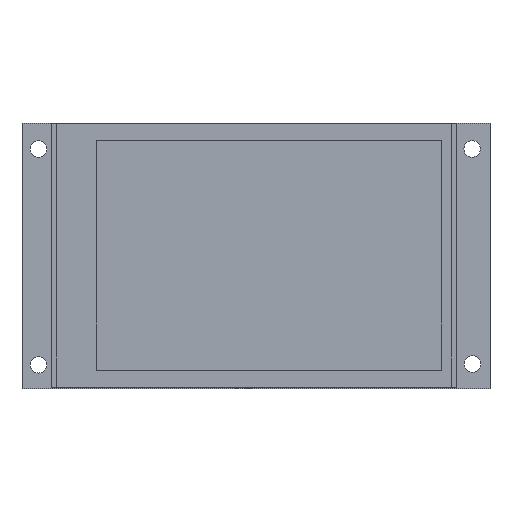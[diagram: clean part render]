
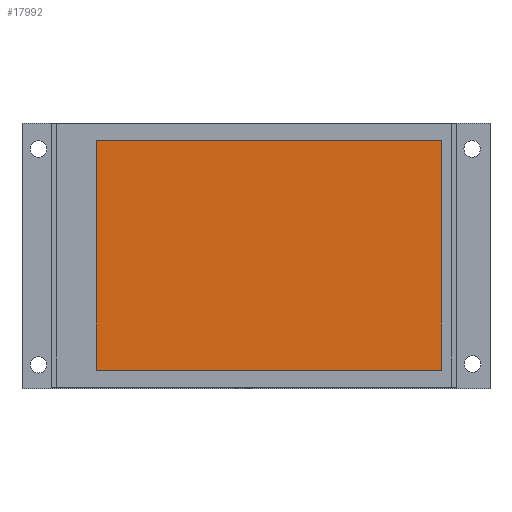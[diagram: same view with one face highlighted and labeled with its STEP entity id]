
A CAD part, top view. The second image highlights one B-rep face of the part: STEP entity #17992.
In plain terms, the highlighted planar face has unit normal (0, 0, 1).
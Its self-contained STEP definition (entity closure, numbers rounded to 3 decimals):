
#1465=FACE_OUTER_BOUND('',#3717,.F.);
#3717=EDGE_LOOP('',(#8599,#8600,#8601,#8602));
#8599=ORIENTED_EDGE('',*,*,#33939,.F.);
#8600=ORIENTED_EDGE('',*,*,#33934,.F.);
#8601=ORIENTED_EDGE('',*,*,#33936,.T.);
#8602=ORIENTED_EDGE('',*,*,#33935,.T.);
#17992=ADVANCED_FACE('',(#1465),#20158,.T.);
#20158=PLANE('',#43329);
#22927=LINE('',#60093,#27919);
#22928=LINE('',#60094,#27920);
#22929=LINE('',#60095,#27921);
#22932=LINE('',#60098,#27924);
#27919=VECTOR('',#48364,48.8);
#27920=VECTOR('',#48365,48.8);
#27921=VECTOR('',#48366,73.4);
#27924=VECTOR('',#48369,73.4);
#33934=EDGE_CURVE('',#39425,#39424,#22927,.T.);
#33935=EDGE_CURVE('',#39423,#39422,#22928,.T.);
#33936=EDGE_CURVE('',#39425,#39423,#22929,.T.);
#33939=EDGE_CURVE('',#39424,#39422,#22932,.T.);
#39422=VERTEX_POINT('',#60073);
#39423=VERTEX_POINT('',#60074);
#39424=VERTEX_POINT('',#60075);
#39425=VERTEX_POINT('',#60076);
#43329=AXIS2_PLACEMENT_3D('',#60320,#48708,#48709);
#48364=DIRECTION('',(0.,-1.,0.));
#48365=DIRECTION('',(0.,-1.,0.));
#48366=DIRECTION('',(1.,0.,0.));
#48369=DIRECTION('',(1.,0.,0.));
#48708=DIRECTION('',(0.,0.,1.));
#48709=DIRECTION('',(1.,0.,0.));
#60073=CARTESIAN_POINT('',(-55.87,-65.54,17.963));
#60074=CARTESIAN_POINT('',(-55.87,-16.74,17.963));
#60075=CARTESIAN_POINT('',(-129.27,-65.54,17.963));
#60076=CARTESIAN_POINT('',(-129.27,-16.74,17.963));
#60093=CARTESIAN_POINT('',(-129.27,-16.74,17.963));
#60094=CARTESIAN_POINT('',(-55.87,-16.74,17.963));
#60095=CARTESIAN_POINT('',(-129.27,-16.74,17.963));
#60098=CARTESIAN_POINT('',(-129.27,-65.54,17.963));
#60320=CARTESIAN_POINT('',(-130.004,-66.274,17.963));
